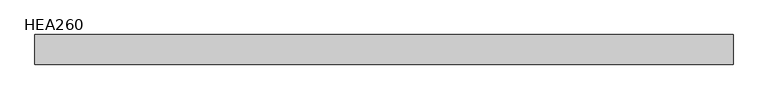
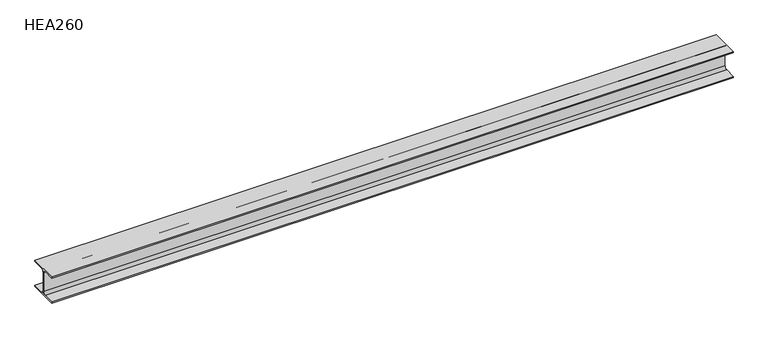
"""IFC4 building model written with IfcOpenShell, lengths in millimetres: beam geometry, HE-A : HEA260."""

from ifc_helpers import new_model, si_unit, point, frame, frame_2d, origin, place, context, project, spatial, polyline, circle_curve, trimmed, segment, composite_curve, outline, extrude, source, transform, mapped, element, save


def hea260_2124dacb(model_context):
    return source(origin(), model_context, "Body", "SweptSolid", [
        extrude(outline(composite_curve([segment(polyline([(130.0, -112.5), (130.0, -125.0), (-130.0, -125.0), (-130.0, -112.5), (-27.75, -112.5)]), True, "CONTINUOUS"), segment(trimmed(circle_curve(frame_2d((-27.75, -88.5)), 24.0), [point((-27.75, -112.5))], [point((-3.75, -88.5))], True, "CARTESIAN"), True, "CONTINUOUS"), segment(polyline([(-3.75, -88.5), (-3.75, 88.5)]), True, "CONTINUOUS"), segment(trimmed(circle_curve(frame_2d((-27.75, 88.5)), 24.0), [point((-3.75, 88.5))], [point((-27.75, 112.5))], True, "CARTESIAN"), True, "CONTINUOUS"), segment(polyline([(-27.75, 112.5), (-130.0, 112.5), (-130.0, 125.0), (130.0, 125.0), (130.0, 112.5), (27.75, 112.5)]), True, "CONTINUOUS"), segment(trimmed(circle_curve(frame_2d((27.75, 88.5)), 24.0), [point((27.75, 112.5))], [point((3.75, 88.5))], True, "CARTESIAN"), True, "CONTINUOUS"), segment(polyline([(3.75, 88.5), (3.75, -88.5)]), True, "CONTINUOUS"), segment(trimmed(circle_curve(frame_2d((27.75, -88.5)), 24.0), [point((3.75, -88.5))], [point((27.75, -112.5))], True, "CARTESIAN"), True, "CONTINUOUS"), segment(polyline([(27.75, -112.5), (130.0, -112.5)]), True, "CONTINUOUS")], self_intersect=False)), frame((-3060.4, 0.0, 0.0), z_axis=(1.0, 0.0, 0.0), x_axis=(0.0, 1.0, 0.0)), (0.0, 0.0, 1.0), 6120.8),
    ])


if __name__ == "__main__":
    model = new_model("IFC4")
    model_context = context("Model", 3, world=origin())
    ifc_project = project(units=[si_unit("LENGTHUNIT", "METRE", prefix="MILLI")], contexts=[model_context])
    site = spatial("IfcSite", under=ifc_project)
    building = spatial("IfcBuilding", under=site)
    placement = place(None, origin())
    hea260_shape = hea260_2124dacb(model_context)
    element("IfcBeam", 1, ObjectType="HE-A : HEA260", at=placement, inside=building, context=model_context, shape_type="MappedRepresentation", body=[
        mapped(hea260_shape, transform((0.0, 0.0, 0.0), x_axis=(1.0, 0.0, 0.0), y_axis=(0.0, 1.0, 0.0), z_axis=(0.0, 0.0, 1.0))),
    ])
    save(model, "model.ifc")
